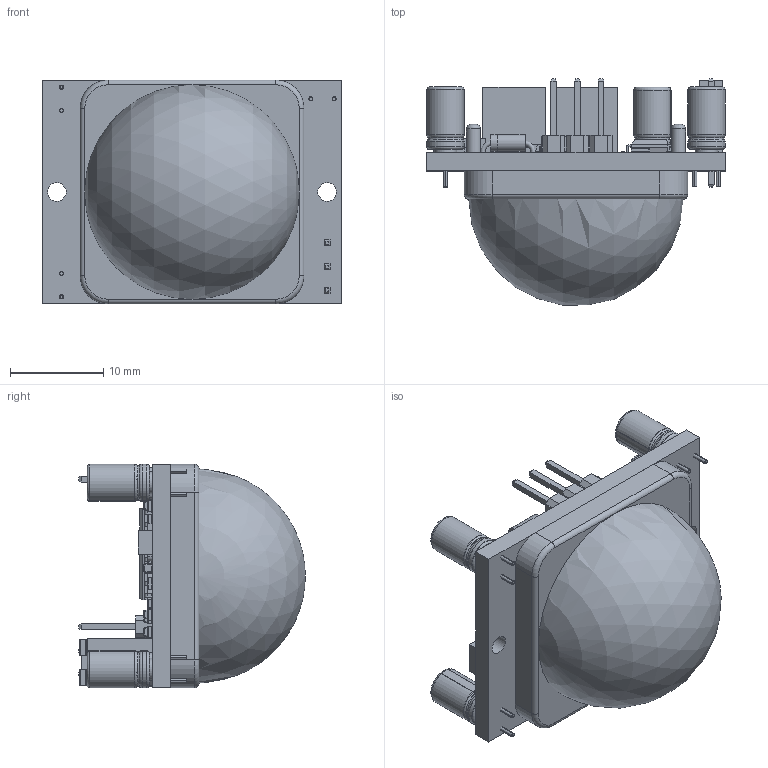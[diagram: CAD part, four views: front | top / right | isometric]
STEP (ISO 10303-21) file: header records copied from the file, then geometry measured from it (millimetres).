
FILE_DESCRIPTION(/* description */ (''),/* implementation_level */ '2;1');
FILE_NAME(/* name */ 'D:/3D Objects/Print 3D/PIR Sensor HC SR-501/PIR Sensor.step',/* time_stamp */ '2020-05-01T15:18:12-05:00',/* author */ (''),/* organization */ (''),/* preprocessor_version */ 'ST-DEVELOPER v18.1',/* originating_system */ 'Autodesk Translation Framework v9.2.0.1227',/* authorisation */ '');
FILE_SCHEMA (('AUTOMOTIVE_DESIGN { 1 0 10303 214 3 1 1 }'));
Length unit declared in the file: millimetre
Products named in the file (42): PIR; Component50; PCB; U; transistor; PIR_1; Integrado; PotTime; PotSens; Diode 1N914; Lens; C; CAPC-0603-T0 (1) (1); CAPC-0603-T2; CAPC-0603-T0 (1); Aluminum_electrolytic_capacitor_radial_D4_H7_PinD0.45_Pitch2; Seal; Can; Negative_cover; Pin_form2; Main_cover_black_10-10-10; Aluminum_electrolytic_capacitor_radial_D4_H7_PinD0.45_Pitch2 (1); Aluminum_electrolytic_capacitor_radial_D4_H7_PinD0.45_Pitch2 (1)_1; Aluminum_electrolytic_capacitor_radial_D4_H7_PinD0.45_Pitch2 (1)_2; Seal (1); Can (1); Negative_cover (1); Main_cover_blue_25-130-230; Pin_form2 (1); R; Yageo RC0805 Resistor Series 152; Yageo RC0805 Resistor Series 103; Yageo RC0805 Resistor Series 102; Yageo RC0805 Resistor Series 682; Yageo RC0805 Resistor Series 202; Yageo RC0805 Resistor Series 473; Yageo RC0805 Resistor Series 474; Yageo RC0805 Resistor Series 183; Yageo RC0805 Resistor Series 105; J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
Assembly tree (63 placements, depth 5):
  PIR
    Component50
      PCB
      U
        transistor
        PIR_1
        Integrado
        PotTime
        PotSens
      Diode 1N914
      Lens
      C
        CAPC-0603-T2  x5
        CAPC-0603-T0 (1)  x3
        CAPC-0603-T0 (1) (1)
        Aluminum_electrolytic_capacitor_radial_D4_H7_PinD0.45_Pitch2
          Seal
          Can
          Negative_cover
          Pin_form2
          Main_cover_black_10-10-10
        Aluminum_electrolytic_capacitor_radial_D4_H7_PinD0.45_Pitch2 (1)
          Seal (1)
          Can (1)
          Negative_cover (1)
          Main_cover_blue_25-130-230
          Pin_form2 (1)
        Aluminum_electrolytic_capacitor_radial_D4_H7_PinD0.45_Pitch2 (1)_1
          Seal (1)
          Can (1)
          Negative_cover (1)
          Main_cover_blue_25-130-230
          Pin_form2 (1)
        Aluminum_electrolytic_capacitor_radial_D4_H7_PinD0.45_Pitch2 (1)_2
          Seal (1)
          Can (1)
          Negative_cover (1)
          Main_cover_blue_25-130-230
          Pin_form2 (1)
      R
        Yageo RC0805 Resistor Series 183  x3
        Yageo RC0805 Resistor Series 152
        Yageo RC0805 Resistor Series 103
        Yageo RC0805 Resistor Series 102
        Yageo RC0805 Resistor Series 682
        Yageo RC0805 Resistor Series 202
        Yageo RC0805 Resistor Series 473
        Yageo RC0805 Resistor Series 474
        Yageo RC0805 Resistor Series 105  x4
      J
        DS1021-1X3  x2
        Jumper
Bounding box: 32 x 24.32 x 24 mm (x, y, z)
Volume: 4057.2 mm3; surface area: 8065.6 mm2
Topology: 206 solids, 210 shells, 4486 faces, 11261 edges, 7148 vertices
Faces by surface type: plane 2736, cylinder 725, bspline 611, torus 287, sphere 118, cone 9
Full cylindrical faces by diameter (mm): 0.5 x5, 1 x8, 1.5 x8, 1.8 x2, 2 x2, 2.4 x8, 3.6 x12, 3.8 x8, 9 x1, 9.5 x1
Entity records: 98402 total; most frequent: CARTESIAN_POINT 24232, ORIENTED_EDGE 15310, DIRECTION 13986, EDGE_CURVE 7659, LINE 5376, VECTOR 5376, VERTEX_POINT 4884, AXIS2_PLACEMENT_3D 4305
